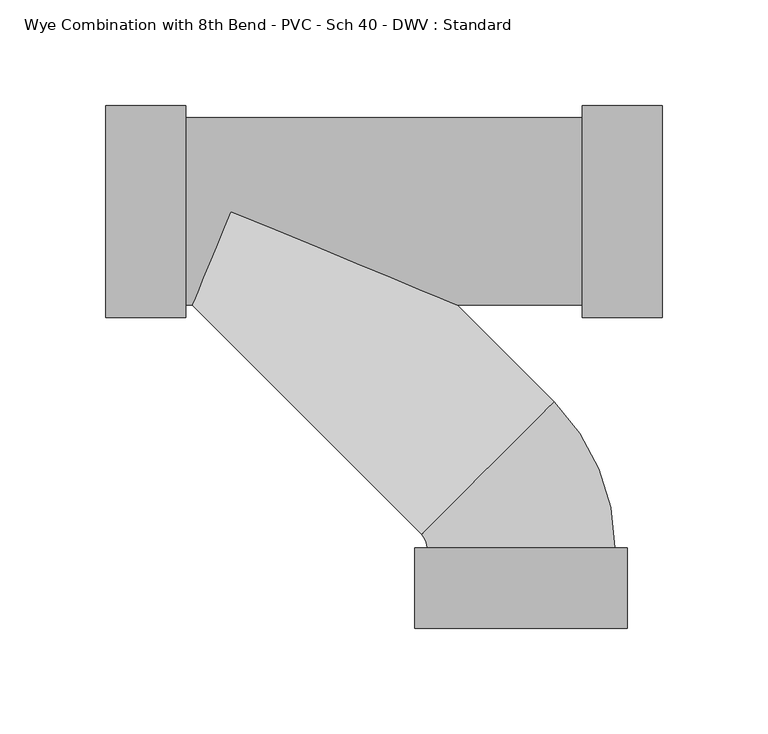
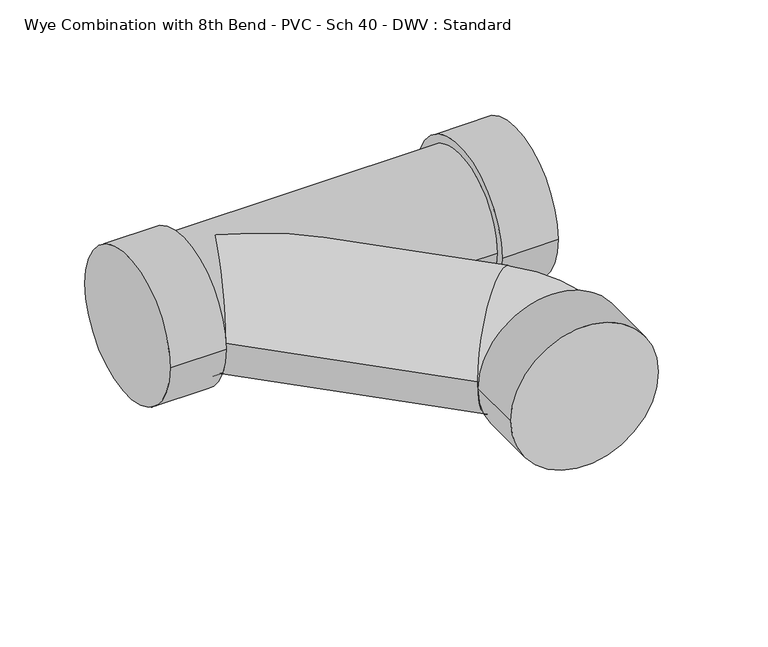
"""IFC4 building model written with IfcOpenShell, lengths in millimetres: pipe fitting geometry, Wye Combination with 8th Bend - PVC - Sch 40 - DWV : Standard."""

from ifc_helpers import new_model, si_unit, point, frame, origin, place, context, project, spatial, circle_curve, ellipse_curve, trimmed, source, transform, mapped, element, save
from ifc_brep_helpers import plane_surface, cylinder_surface, revolved_surface, advanced_brep


def wye_combination_with_8th_bend_pvc_sch_40_dwv_standard_8cbd1322(model_context):
    return source(origin(), model_context, "Body", "AdvancedBrep", [
        advanced_brep(
        [(-196.8327327, -50.2666, 0.0), (-196.8327327, 50.2666, 0.0), (-158.7327327, -50.2666, 0.0), (-158.7327327, 50.2666, 0.0), (-158.7327327, -44.45, 0.0), (-158.7327327, 44.45, 0.0), (28.9986673, 44.45, 0.0), (-155.8014739, -44.45, 0.0), (-137.389681, 0.0, 44.45), (-30.0778882, -44.45, 0.0), (28.9986673, -44.45, 0.0), (-137.389681, 0.0, -44.45), (28.9986673, -50.2666, 0.0), (28.9986673, 50.2666, 0.0), (67.0986673, -50.2666, 0.0), (67.0986673, 50.2666, 0.0), (-47.066311, -153.1851628, 0.0), (-44.4327324, -159.542211, 0.0), (44.4672671, -159.532589, 0.0), (15.7954818, -90.32337, 0.0), (-50.2493324, -159.5428405, 0.0), (50.283867, -159.5319595, 0.0), (-50.2452087, -197.6428403, 0.0), (50.2879907, -197.6319592, 0.0)],
        [
            (0, 1, circle_curve(frame((-196.8327327, 0.0, 0.0), z_axis=(-1.0, 0.0, 0.0), x_axis=(0.0, 1.0, 0.0)), 50.2666)),
            (1, 0, circle_curve(frame((-196.8327327, 0.0, 0.0), z_axis=(-1.0, 0.0, 0.0), x_axis=(0.0, 1.0, 0.0)), 50.2666)),
            (2, 3, circle_curve(frame((-158.7327327, 0.0, 0.0), z_axis=(1.0, 0.0, 0.0), x_axis=(0.0, 1.0, 0.0)), 50.2666)),
            (3, 2, circle_curve(frame((-158.7327327, 0.0, 0.0), z_axis=(1.0, 0.0, 0.0), x_axis=(0.0, 1.0, 0.0)), 50.2666)),
            (4, 5, circle_curve(frame((-158.7327327, 0.0, 0.0), z_axis=(-1.0, 0.0, 0.0), x_axis=(0.0, 1.0, 0.0)), 44.45)),
            (5, 4, circle_curve(frame((-158.7327327, 0.0, 0.0), z_axis=(-1.0, 0.0, 0.0), x_axis=(0.0, 1.0, 0.0)), 44.45)),
            (0, 2),
            (3, 1),
            (6, 5),
            (4, 7),
            (7, 8, ellipse_curve(frame((-137.389681, 0.0, 0.0), z_axis=(-0.9238795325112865, 0.38268343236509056, 0.0), x_axis=(-0.3826834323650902, -0.9238795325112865, 0.0)), 48.1123333, 44.45)),
            (8, 9, ellipse_curve(frame((-137.389681, 0.0, 0.0), z_axis=(0.38268343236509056, 0.9238795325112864, 0.0), x_axis=(-0.9238795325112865, 0.38268343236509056, 0.0)), 116.1534476, 44.45)),
            (9, 10),
            (10, 6, circle_curve(frame((28.9986673, 0.0, 0.0), z_axis=(-1.0, 0.0, 0.0), x_axis=(0.0, 1.0, 0.0)), 44.45)),
            (6, 10, circle_curve(frame((28.9986673, 0.0, 0.0), z_axis=(-1.0, 0.0, 0.0), x_axis=(0.0, 1.0, 0.0)), 44.45)),
            (9, 11, ellipse_curve(frame((-137.389681, 0.0, 0.0), z_axis=(0.38268343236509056, 0.9238795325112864, 0.0), x_axis=(-0.9238795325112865, 0.38268343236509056, 0.0)), 116.1534476, 44.45)),
            (11, 7, ellipse_curve(frame((-137.389681, 0.0, 0.0), z_axis=(-0.9238795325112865, 0.38268343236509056, 0.0), x_axis=(-0.3826834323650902, -0.9238795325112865, 0.0)), 48.1123333, 44.45)),
            (12, 13, circle_curve(frame((28.9986673, 0.0, 0.0), z_axis=(-1.0, 0.0, 0.0), x_axis=(0.0, 1.0, 0.0)), 50.2666)),
            (13, 12, circle_curve(frame((28.9986673, 0.0, 0.0), z_axis=(-1.0, 0.0, 0.0), x_axis=(0.0, 1.0, 0.0)), 50.2666)),
            (14, 15, circle_curve(frame((67.0986673, 0.0, 0.0), z_axis=(1.0, 0.0, 0.0), x_axis=(0.0, 1.0, 0.0)), 50.2666)),
            (15, 14, circle_curve(frame((67.0986673, 0.0, 0.0), z_axis=(1.0, 0.0, 0.0), x_axis=(0.0, 1.0, 0.0)), 50.2666)),
            (12, 14),
            (15, 13),
            (16, 17, circle_curve(frame((-53.4243324, -159.5431842, 0.0), z_axis=(0.0, 0.0, -1.0), x_axis=(0.9999999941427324, 0.00010823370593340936, 0.0)), 8.9916)),
            (17, 18, circle_curve(frame((0.0172673, -159.5374, 0.0), z_axis=(-0.00010823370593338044, 0.9999999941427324, 0.0), x_axis=(-0.9999999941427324, -0.00010823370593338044, 0.0)), 44.45)),
            (18, 19, circle_curve(frame((-53.4243324, -159.5431842, 0.0), z_axis=(0.0, 0.0, 1.0), x_axis=(0.9999999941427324, 0.00010823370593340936, 0.0)), 97.8916)),
            (19, 16, circle_curve(frame((-15.6354146, -121.7542664, 0.0), z_axis=(0.7071067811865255, -0.7071067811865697, 0.0), x_axis=(-0.7071067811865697, -0.7071067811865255, 0.0)), 44.45)),
            (16, 19, circle_curve(frame((-15.6354146, -121.7542664, 0.0), z_axis=(0.7071067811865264, -0.7071067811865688, 0.0), x_axis=(-0.7071067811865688, -0.7071067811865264, 0.0)), 44.45)),
            (18, 17, circle_curve(frame((0.0172673, -159.5374, 0.0), z_axis=(-0.00010823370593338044, 0.9999999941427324, 0.0), x_axis=(-0.9999999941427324, -0.00010823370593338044, 0.0)), 44.45)),
            (19, 9),
            (7, 16),
            (20, 21, circle_curve(frame((0.0172673, -159.5374, 0.0), z_axis=(-0.00010823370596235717, 0.9999999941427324, 0.0), x_axis=(0.9999999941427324, 0.00010823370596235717, 0.0)), 50.2666)),
            (21, 20, circle_curve(frame((0.0172673, -159.5374, 0.0), z_axis=(-0.00010823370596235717, 0.9999999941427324, 0.0), x_axis=(0.9999999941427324, 0.00010823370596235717, 0.0)), 50.2666)),
            (22, 23, circle_curve(frame((0.021391, -197.6373998, 0.0), z_axis=(0.00010823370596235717, -0.9999999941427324, 0.0), x_axis=(0.9999999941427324, 0.00010823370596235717, 0.0)), 50.2666)),
            (23, 22, circle_curve(frame((0.021391, -197.6373998, 0.0), z_axis=(0.00010823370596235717, -0.9999999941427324, 0.0), x_axis=(0.9999999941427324, 0.00010823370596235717, 0.0)), 50.2666)),
            (20, 22),
            (23, 21),
        ],
        [
            plane_surface(frame((-196.8327327, 0.0, 0.0), z_axis=(-1.0, 0.0, 0.0), x_axis=(0.0, 0.0, 1.0))),
            plane_surface(frame((-158.7327327, 0.0, 0.0), z_axis=(1.0, 0.0, 0.0), x_axis=(0.0, 0.0, 1.0))),
            cylinder_surface(frame((-196.8327327, 0.0, 0.0), z_axis=(-1.0, 0.0, 0.0), x_axis=(0.0, 1.0, 0.0)), 50.2666),
            cylinder_surface(frame((-158.7327327, 0.0, 0.0), z_axis=(-1.0, 0.0, 0.0), x_axis=(0.0, 1.0, 0.0)), 44.45),
            plane_surface(frame((28.9986673, 0.0, 0.0), z_axis=(-1.0, 0.0, 0.0), x_axis=(0.0, 0.0, 1.0))),
            plane_surface(frame((67.0986673, 0.0, 0.0), z_axis=(1.0, 0.0, 0.0), x_axis=(0.0, 0.0, 1.0))),
            cylinder_surface(frame((28.9986673, 0.0, 0.0), z_axis=(-1.0, 0.0, 0.0), x_axis=(0.0, 1.0, 0.0)), 50.2666),
            revolved_surface(trimmed(ellipse_curve(frame((0.0172673, -159.5374, 0.0), z_axis=(0.00010823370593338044, -0.9999999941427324, 0.0), x_axis=(-0.9999999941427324, -0.00010823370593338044, 0.0)), 44.45, 44.45), [point((44.4672671, -159.532589, 0.0))], [point((-44.4327324, -159.542211, 0.0))], True, "CARTESIAN"), (-53.4243324, -159.5431842, 0.0), (0.0, 0.0, 1.0)),
            revolved_surface(trimmed(ellipse_curve(frame((0.0172673, -159.5374, 0.0), z_axis=(0.00010823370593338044, -0.9999999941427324, 0.0), x_axis=(-0.9999999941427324, -0.00010823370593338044, 0.0)), 44.45, 44.45), [point((-44.4327324, -159.542211, 0.0))], [point((44.4672671, -159.532589, 0.0))], True, "CARTESIAN"), (-53.4243324, -159.5431842, 0.0), (0.0, 0.0, 1.0)),
            cylinder_surface(frame((-15.6354146, -121.7542664, 0.0), z_axis=(0.7071067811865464, -0.7071067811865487, 0.0), x_axis=(-0.7071067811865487, -0.7071067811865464, 0.0)), 44.45),
            plane_surface(frame((0.0172673, -159.5374, 0.0), z_axis=(-0.00010823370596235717, 0.9999999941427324, 0.0), x_axis=(0.0, 0.0, 1.0))),
            plane_surface(frame((0.021391, -197.6373998, 0.0), z_axis=(0.00010823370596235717, -0.9999999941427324, 0.0), x_axis=(0.0, 0.0, 1.0))),
            cylinder_surface(frame((0.0172673, -159.5374, 0.0), z_axis=(-0.00010823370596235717, 0.9999999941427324, 0.0), x_axis=(0.9999999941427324, 0.00010823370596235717, 0.0)), 50.2666),
        ],
        [
            (0, [[1, 2]]),
            (1, [[3, 4], [5, 6]]),
            (2, [[-1, 7, -4, 8]]),
            (2, [[-2, -8, -3, -7]]),
            (3, [[9, -5, 10, 11, 12, 13, 14]]),
            (3, [[-9, 15, -13, 16, 17, -10, -6]]),
            (4, [[18, 19], [-14, -15]]),
            (5, [[20, 21]]),
            (6, [[-18, 22, -21, 23]]),
            (6, [[-19, -23, -20, -22]]),
            (7, [[24, 25, 26, 27]]),
            (8, [[-24, 28, -26, 29]]),
            (9, [[-27, 30, -12, -11, 31]]),
            (9, [[-28, -31, -17, -16, -30]]),
            (10, [[32, 33], [-25, -29]]),
            (11, [[34, 35]]),
            (12, [[-32, 36, -35, 37]]),
            (12, [[-33, -37, -34, -36]]),
        ],
    ),
    ])


if __name__ == "__main__":
    model = new_model("IFC4")
    model_context = context("Model", 3, world=origin())
    ifc_project = project(units=[si_unit("LENGTHUNIT", "METRE", prefix="MILLI")], contexts=[model_context])
    site = spatial("IfcSite", under=ifc_project)
    building = spatial("IfcBuilding", under=site)
    placement = place(None, origin())
    wye_combination_with_8th_bend_pvc_sch_40_dwv_standard_shape = wye_combination_with_8th_bend_pvc_sch_40_dwv_standard_8cbd1322(model_context)
    element("IfcPipeFitting", 1, ObjectType="Wye Combination with 8th Bend - PVC - Sch 40 - DWV : Standard", at=placement, inside=building, context=model_context, shape_type="MappedRepresentation", body=[
        mapped(wye_combination_with_8th_bend_pvc_sch_40_dwv_standard_shape, transform((0.0, 0.0, 0.0), x_axis=(1.0, 0.0, 0.0), y_axis=(0.0, 1.0, 0.0), z_axis=(0.0, 0.0, 1.0))),
    ])
    save(model, "model.ifc")
